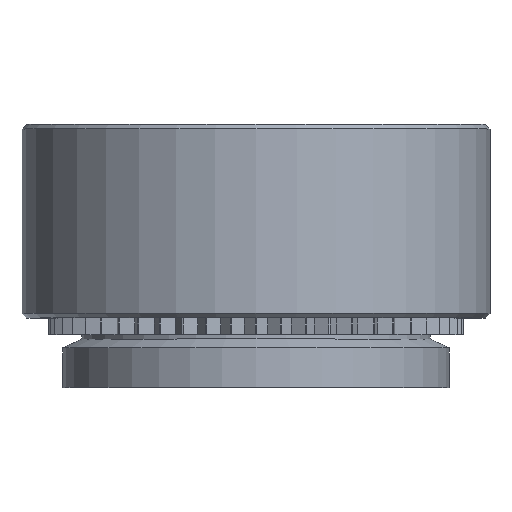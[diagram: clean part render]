
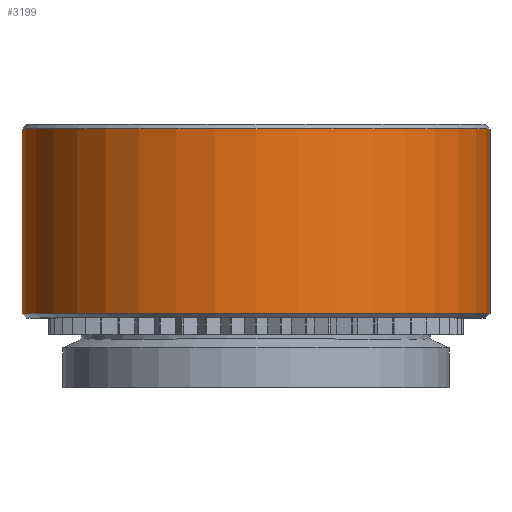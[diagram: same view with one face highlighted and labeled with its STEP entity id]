
A CAD part, top view. The second image highlights one B-rep face of the part: STEP entity #3199.
In plain terms, the highlighted cylindrical face has radius 10.275 mm (diameter 20.55 mm), a full revolution.
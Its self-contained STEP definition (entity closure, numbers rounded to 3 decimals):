
#127=CYLINDRICAL_SURFACE('',#3394,10.275);
#184=FACE_OUTER_BOUND('',#353,.T.);
#353=EDGE_LOOP('',(#2214,#2215,#2216,#2217,#2218,#2219));
#526=LINE('',#4643,#899);
#899=VECTOR('',#3695,10.275);
#1271=CIRCLE('',#3391,10.275);
#1272=CIRCLE('',#3392,10.275);
#1274=CIRCLE('',#3395,10.275);
#1275=CIRCLE('',#3396,10.275);
#1390=VERTEX_POINT('',#4631);
#1391=VERTEX_POINT('',#4632);
#1393=VERTEX_POINT('',#4639);
#1394=VERTEX_POINT('',#4640);
#1717=EDGE_CURVE('',#1390,#1391,#1271,.T.);
#1718=EDGE_CURVE('',#1391,#1390,#1272,.T.);
#1721=EDGE_CURVE('',#1393,#1394,#1274,.T.);
#1722=EDGE_CURVE('',#1394,#1393,#1275,.T.);
#1723=EDGE_CURVE('',#1394,#1391,#526,.T.);
#2214=ORIENTED_EDGE('',*,*,#1721,.F.);
#2215=ORIENTED_EDGE('',*,*,#1722,.F.);
#2216=ORIENTED_EDGE('',*,*,#1723,.T.);
#2217=ORIENTED_EDGE('',*,*,#1717,.F.);
#2218=ORIENTED_EDGE('',*,*,#1718,.F.);
#2219=ORIENTED_EDGE('',*,*,#1723,.F.);
#3199=ADVANCED_FACE('',(#184),#127,.T.);
#3391=AXIS2_PLACEMENT_3D('',#4633,#3682,#3683);
#3392=AXIS2_PLACEMENT_3D('',#4634,#3684,#3685);
#3394=AXIS2_PLACEMENT_3D('',#4638,#3689,#3690);
#3395=AXIS2_PLACEMENT_3D('',#4641,#3691,#3692);
#3396=AXIS2_PLACEMENT_3D('',#4642,#3693,#3694);
#3682=DIRECTION('center_axis',(0.,-1.,0.));
#3683=DIRECTION('ref_axis',(1.,0.,0.));
#3684=DIRECTION('center_axis',(0.,-1.,0.));
#3685=DIRECTION('ref_axis',(1.,0.,0.));
#3689=DIRECTION('center_axis',(0.,1.,0.));
#3690=DIRECTION('ref_axis',(-1.,0.,0.));
#3691=DIRECTION('center_axis',(0.,1.,0.));
#3692=DIRECTION('ref_axis',(1.,0.,0.));
#3693=DIRECTION('center_axis',(0.,1.,0.));
#3694=DIRECTION('ref_axis',(1.,0.,0.));
#3695=DIRECTION('',(0.,-1.,0.));
#4631=CARTESIAN_POINT('',(-10.275,3.25,0.));
#4632=CARTESIAN_POINT('',(10.275,3.25,0.));
#4633=CARTESIAN_POINT('Origin',(0.,3.25,0.));
#4634=CARTESIAN_POINT('Origin',(0.,3.25,0.));
#4638=CARTESIAN_POINT('Origin',(0.,7.3,0.));
#4639=CARTESIAN_POINT('',(-10.275,11.35,0.));
#4640=CARTESIAN_POINT('',(10.275,11.35,0.));
#4641=CARTESIAN_POINT('Origin',(0.,11.35,0.));
#4642=CARTESIAN_POINT('Origin',(0.,11.35,0.));
#4643=CARTESIAN_POINT('',(10.275,7.3,0.));
